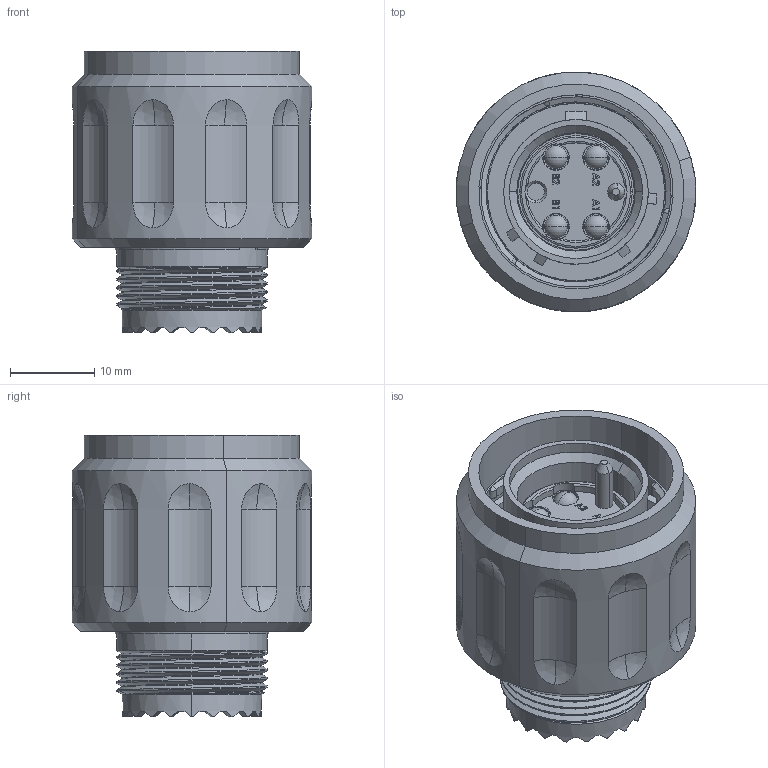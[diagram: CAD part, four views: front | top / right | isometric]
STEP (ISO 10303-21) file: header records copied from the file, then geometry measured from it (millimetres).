
FILE_DESCRIPTION (( 'STEP AP214' ), '1' );
FILE_NAME ('Q38EB-PGX-13XX-X.STEP', '2025-12-15T15:38:06', ( '' ), ( '' ), 'SwSTEP 2.0', 'SolidWorks 2024', '' );
FILE_SCHEMA (( 'AUTOMOTIVE_DESIGN' ));
Length unit declared in the file: millimetre
Products named in the file (1): Q38EB-PGX-13XX-X
Bounding box: 28.4 x 28.35 x 33.35 mm (x, y, z)
Volume: 11308.5 mm3; surface area: 7481.8 mm2
Topology: 1 solids, 7 shells, 651 faces, 1703 edges, 1101 vertices
Faces by surface type: plane 241, cylinder 186, bspline 84, sphere 60, torus 46, cone 34
Entity records: 36275 total; most frequent: CARTESIAN_POINT 21148, ORIENTED_EDGE 3394, DIRECTION 2922, EDGE_CURVE 1697, AXIS2_PLACEMENT_3D 1153, VERTEX_POINT 1101, EDGE_LOOP 738, FACE_OUTER_BOUND 651
